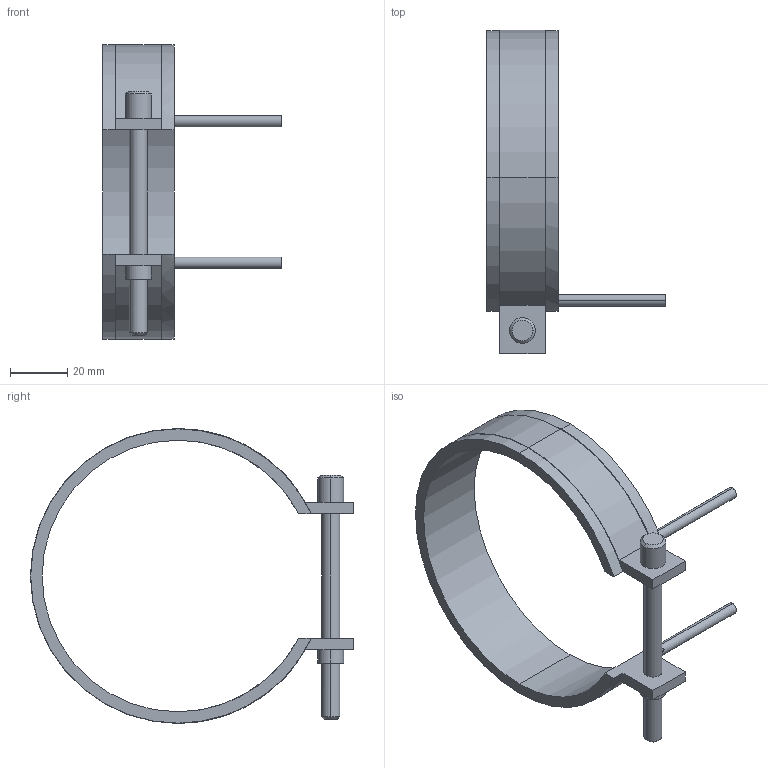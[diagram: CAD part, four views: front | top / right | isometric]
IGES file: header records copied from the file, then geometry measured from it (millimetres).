
Start section: START RECORD GO HERE.
Global section: file name: 14095025.igs; native system: DASSAULT SYSTEMES CATIA V5 R20 - www.3ds.com; preprocessor: CATIA Version 5 Release 20 ; author: Utente; organization: NB04-ASUS; date: 20210406.180647; units: millimetre
Bounding box: 62.5 x 113.1 x 103.2 mm (x, y, z)
Surface area: 19475.1 mm2 (no closed solid volume)
Topology: 0 solids, 0 shells, 45 faces, 232 edges, 232 vertices
Faces by surface type: revolution 28, plane 17
